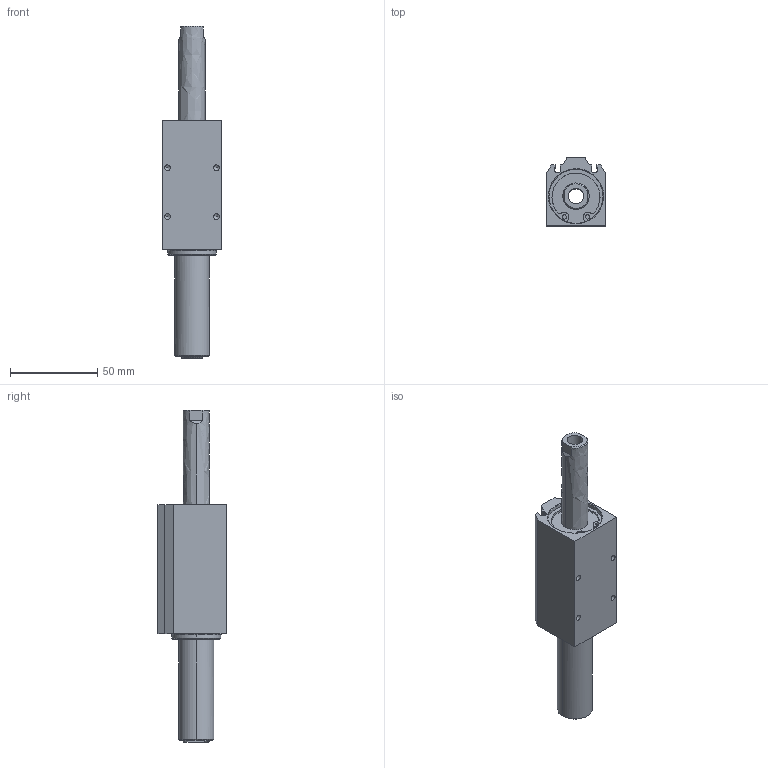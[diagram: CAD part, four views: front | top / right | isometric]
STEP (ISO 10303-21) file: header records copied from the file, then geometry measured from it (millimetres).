
FILE_DESCRIPTION(('STEP AP214'),'1');
FILE_NAME('CA.JDR.305018.stp','2019-07-12T06:09:17',(' '),(' '),'Spatial InterOp 3D',' ',' ');
FILE_SCHEMA(('AUTOMOTIVE_DESIGN { 1 0 10303 214 1 1 1 1 }'));
Length unit declared in the file: millimetre
Products named in the file (3): CA.JDR.305018; 70-6330-0003_AF0_1; 70-1730-0003_AF0_1
Assembly tree (2 placements, depth 2):
  CA.JDR.305018
    70-6330-0003_AF0_1
    70-1730-0003_AF0_1
Bounding box: 34 x 39 x 190.2 mm (x, y, z)
Volume: 76806.6 mm3; surface area: 44424.1 mm2
Topology: 2 solids, 2 shells, 128 faces, 354 edges, 240 vertices
Faces by surface type: bspline 128
Entity records: 5987 total; most frequent: CARTESIAN_POINT 2933, ORIENTED_EDGE 692, EDGE_CURVE 346, VERTEX_POINT 240, B_SPLINE_CURVE_WITH_KNOTS 197, EDGE_LOOP 150, STYLED_ITEM 128, PRESENTATION_STYLE_ASSIGNMENT 128
